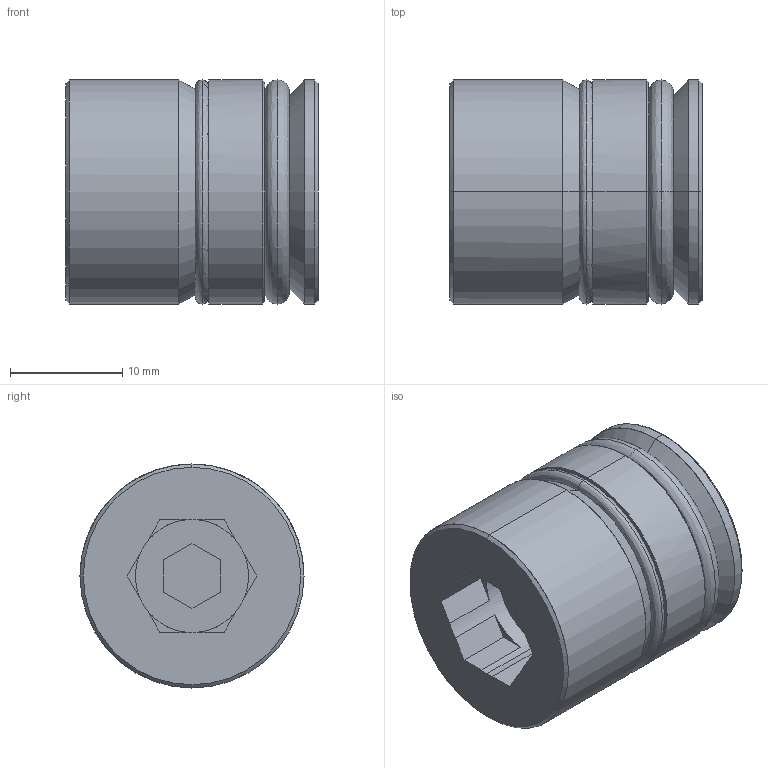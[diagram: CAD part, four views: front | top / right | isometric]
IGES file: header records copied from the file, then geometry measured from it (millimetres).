
Start section: START RECORD GO HERE.
Global section: file name: TRI-20.igs; native system: DASSAULT SYSTEMES CATIA V5 R20 - www.3ds.com; preprocessor: CATIA Version 5 Release 20 ; author: Utente; organization: NB04-ASUS; date: 20210222.201009; units: millimetre
Bounding box: 22.5 x 20 x 20 mm (x, y, z)
Surface area: 2654.3 mm2 (no closed solid volume)
Topology: 0 solids, 0 shells, 56 faces, 320 edges, 320 vertices
Faces by surface type: plane 30, revolution 26
